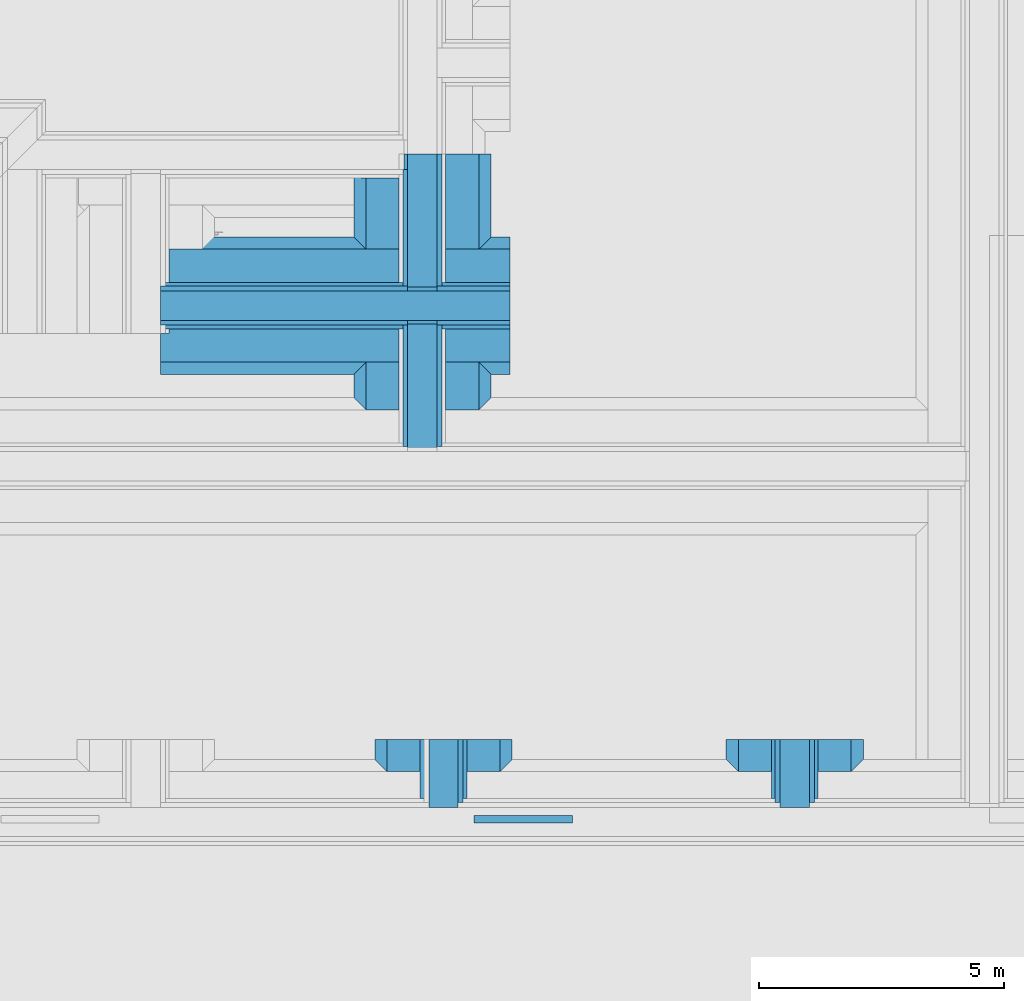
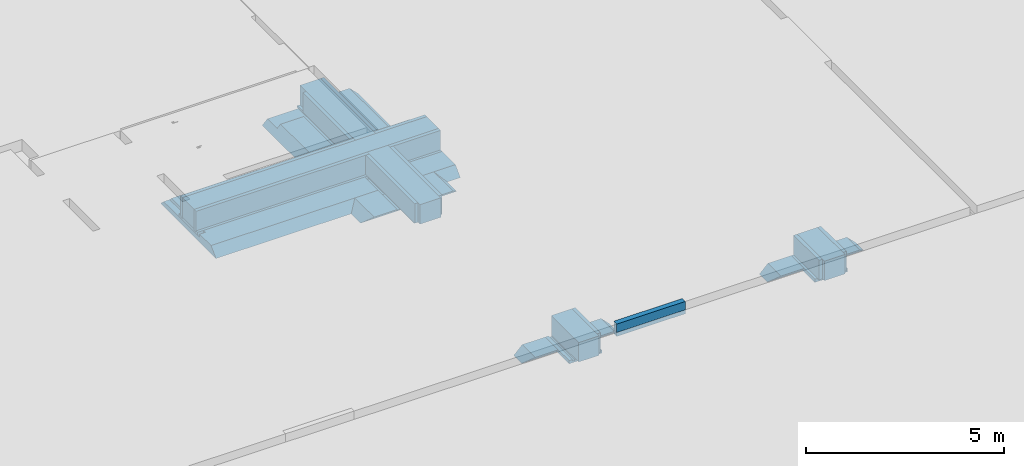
# One storey, part 5 of 15: 20 building element parts, 5 elements without a shape of their own.
"""IFC2X3 building model written with IfcOpenShell, lengths in millimetres."""

from ifc_helpers import new_model, entity, si_unit, converted_unit, derived_unit, money_unit, direction, frame, origin_with_axes, place, context, subcontext, project, spatial, faceted_brep, material, type_object, element, aggregate, save


model = new_model("IFC2X3")

# Units and contexts
model_context = context("Model", 3, precision=0.01, world=origin_with_axes(), true_north=direction((0.0, 1.0)))
plan_context = context("Plan", 3, precision=0.01, world=origin_with_axes(), true_north=direction((0.0, 1.0)))
body_context = subcontext(model_context, "Body", "Model", "MODEL_VIEW")
ifc_project = project(units=[si_unit("LENGTHUNIT", "METRE", prefix="MILLI"), si_unit("AREAUNIT", "SQUARE_METRE"), si_unit("VOLUMEUNIT", "CUBIC_METRE"), converted_unit("PLANEANGLEUNIT", "DEGREE", entity("IfcPlaneAngleMeasure", 0.0174532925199), si_unit("PLANEANGLEUNIT", "RADIAN"), dimensions=[0, 0, 0, 0, 0, 0, 0]), money_unit("EUR"), converted_unit("TIMEUNIT", "Year", entity("IfcTimeMeasure", 31556926.0), si_unit("TIMEUNIT", "SECOND"), dimensions=[0, 0, 1, 0, 0, 0, 0]), si_unit("MASSUNIT", "GRAM", prefix="KILO"), si_unit("THERMODYNAMICTEMPERATUREUNIT", "DEGREE_CELSIUS"), si_unit("LUMINOUSINTENSITYUNIT", "LUMEN"), si_unit("ENERGYUNIT", "JOULE", prefix="MEGA"), derived_unit("THERMALCONDUCTANCEUNIT", [(si_unit("POWERUNIT", "WATT"), 1), (si_unit("LENGTHUNIT", "METRE"), -1), (si_unit("THERMODYNAMICTEMPERATUREUNIT", "KELVIN"), -1)]), derived_unit("SPECIFICHEATCAPACITYUNIT", [(si_unit("ENERGYUNIT", "JOULE"), 1), (si_unit("MASSUNIT", "GRAM", prefix="KILO"), -1), (si_unit("THERMODYNAMICTEMPERATUREUNIT", "KELVIN"), -1)]), derived_unit("MASSDENSITYUNIT", [(si_unit("MASSUNIT", "GRAM", prefix="KILO"), 1), (si_unit("VOLUMEUNIT", "CUBIC_METRE"), -1)])], contexts=[model_context, plan_context])

# Site, building, storey
site_placement = place(None, origin_with_axes())
site = spatial("IfcSite", under=ifc_project, at=site_placement, Name="Site", CompositionType="ELEMENT")
building_placement = place(site_placement, origin_with_axes())
building = spatial("IfcBuilding", under=site, at=building_placement, Name="Naam gebouw", CompositionType="ELEMENT")
storey_placement = place(building_placement, frame((0.0, 0.0, -1050.0), z_axis=(0.0, 0.0, 1.0), x_axis=(1.0, 0.0, 0.0)))
storey = spatial("IfcBuildingStorey", under=building, at=storey_placement, Name="fundering", CompositionType="ELEMENT", Elevation=-1050.0)

# Beam, building element parts
beam_type = type_object("IfcBeamType", Name="Fundering balk IsoBouw Powerkist 2800 x 850", PredefinedType="BEAM")
beam_1_placement = place(storey_placement, frame((24125.0, 12425.0006215, -60.0000017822), z_axis=(0.0, 0.0, 1.0), x_axis=(1.0, 0.0, 0.0)))
beam_1 = element("IfcBeam", 1, at=beam_1_placement, inside=storey, type_object=beam_type, Name="28_Balk-x", ObjectType="BEAM")
ifc_material_1 = material(Name="ALG - TERREIN")
building_element_part_1_placement = place(beam_1_placement, origin_with_axes())
building_element_part_1 = element("IfcBuildingElementPart", 2, at=building_element_part_1_placement, material=ifc_material_1, Name="ALG - TERREIN", context=body_context, shape_type="Brep", body=[
    faceted_brep([(-1230.00025133, 6069.99937852, -99.9999968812), (-455.000240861, 6069.99937852, -99.9999968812), (495.000270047, 6069.99937852, -99.9999818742), (495.000270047, 6069.99937852, 3.15023562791e-07), (1170.00025413, 6069.99937852, 3.15023562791e-07), (1420.00025133, 6069.99937852, -249.999996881), (-1380.00025133, 6069.99937852, -249.999996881), (-455.000251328, 6049.99937233, -99.9999968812), (-1230.00025123, 6049.99937233, -99.999996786), (-455.000251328, 5574.99937578, -99.9999968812), (-455.000263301, 4224.99974971, -99.9999924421), (495.000263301, 4224.99974971, -99.9999924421), (495.000263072, 4124.99977648, -1.92126834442e-05), (1170.00025413, 4124.99977648, -1.92126834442e-05), (1420.00025133, 4374.99975415, -249.999996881), (-1380.00025133, 4374.99975415, -249.999996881), (-1130.00025413, 4124.99977648, -1.92126834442e-05), (-1130.00025413, 5574.99937578, -1.53859369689e-06), (-1230.00025164, 5574.99937578, -99.99999719), (-455.000251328, 5574.99937578, -1.44869627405e-06), (-455.000263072, 4124.99977648, -1.92126834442e-05)], [[[0, 1, 2, 3, 4, 5, 6]], [[7, 1, 0, 8]], [[7, 9, 10, 11, 2, 1]], [[2, 11, 12, 3]], [[3, 12, 13, 4]], [[4, 13, 14, 5]], [[5, 14, 15, 6]], [[8, 0, 6, 15, 16, 17, 18]], [[9, 7, 8, 18]], [[9, 19, 20, 10]], [[16, 15, 14, 13, 12, 11, 10, 20]], [[19, 17, 16, 20]], [[17, 19, 9, 18]]]),
    faceted_brep([(-1380.00025133, 1574.9990029, -249.999996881), (1420.00025133, 1574.9990029, -249.999996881), (1420.00025133, 1100.00012704, -249.999996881), (-1380.00025133, 1100.00012704, -249.999996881), (1170.00025413, 1824.99898057, -1.92126834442e-05), (-1130.00025413, 1824.99898057, -1.92126834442e-05), (-455.000254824, 1824.99898057, -1.92126834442e-05), (-455.000254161, 1724.9990029, -99.9999968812), (495.000254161, 1724.9990029, -99.9999968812), (495.000254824, 1824.99898057, -1.92126834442e-05), (1170.00025413, 850.000124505, -4.64804861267e-06), (-1130.00025413, 850.000124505, -3.71526964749e-06), (495.000251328, 850.000124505, -3.57478113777e-06), (495.000251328, 950.000127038, -99.9999968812), (-455.000251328, 950.000127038, -99.9999968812), (-455.000251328, 850.000124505, -3.57478113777e-06)], [[[0, 1, 2, 3]], [[4, 1, 0, 5, 6, 7, 8, 9]], [[1, 4, 10, 2]], [[11, 3, 2, 10, 12, 13, 14, 15]], [[5, 0, 3, 11]], [[6, 5, 11, 15]], [[7, 6, 15, 14]], [[8, 7, 14, 13]], [[9, 8, 13, 12]], [[4, 9, 12, 10]]]),
])
ifc_material_2 = material(Name="Isolatie - EPS")
building_element_part_2_placement = place(beam_1_placement, origin_with_axes())
building_element_part_2 = element("IfcBuildingElementPart", 3, at=building_element_part_2_placement, material=ifc_material_2, Name="Isolatie - EPS", context=body_context, shape_type="Brep", body=[
    faceted_brep([(-360.000252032, 6069.99937852, -49.0824424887), (-360.000252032, 6069.99937852, 0.0), (-280.000116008, 6069.99937852, 0.0), (-280.000249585, 6069.99937852, -49.0824424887), (-360.000252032, 3449.99975415, 8.43651903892e-06), (-360.000252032, 5749.99937852, -1.43982603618e-08), (-360.000252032, 3449.99975415, -49.0824424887), (-280.000248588, 5749.99937852, 0.0), (-280.000248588, 5749.99937852, 600.0), (-280.000249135, 3374.99974503, 600.000004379), (-280.000249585, 3374.99973954, 8.43651903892e-06), (-280.000249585, 3449.99975415, 8.43651903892e-06), (-280.000249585, 3449.99975415, -49.0824424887), (-380.000242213, 3374.99974503, 2.4249691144e-06), (-380.000242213, 5749.99937852, -1.79978254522e-08), (-360.000252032, 3374.99973954, 8.43651903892e-06), (-380.000242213, 5749.99937852, 599.999999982), (-380.000242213, 3374.99974503, 600.000004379)], [[[0, 1, 2, 3]], [[4, 5, 1, 0, 6]], [[5, 7, 2, 1]], [[2, 7, 8, 9, 10, 11, 12, 3]], [[0, 3, 12, 6]], [[13, 14, 5, 4, 15]], [[4, 6, 12, 11]], [[14, 16, 8, 7, 5]], [[9, 8, 16, 17]], [[17, 13, 15, 10, 9]], [[15, 4, 11, 10]], [[17, 16, 14, 13]]]),
    faceted_brep([(-280.000249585, 175.000127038, -49.0824424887), (-280.000249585, 2499.9990029, -49.0824424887), (-280.000249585, 2499.9990029, 8.43651926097e-06), (-280.000249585, 2574.99901751, 8.43651903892e-06), (-280.000249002, 2574.99901201, 600.000004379), (-280.000248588, 100.000117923, 600.0), (-280.000248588, 100.000124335, 9.74032610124e-06), (-280.000249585, 175.000127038, 9.74032610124e-06), (-360.000252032, 175.000127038, -49.0824424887), (-360.000252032, 2499.9990029, -49.0824424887), (-360.000252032, 2499.9990029, 8.43651926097e-06), (-360.000252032, 2574.99901751, 8.43651903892e-06), (-380.000242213, 2574.99901201, 2.4249691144e-06), (-380.000242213, 2574.99901201, 600.000004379), (-380.000242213, 100.000117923, 600.000000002), (-380.000242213, 100.000117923, 3.85114162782e-09), (-360.000252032, 100.000124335, 9.70129909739e-06), (-360.000252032, 175.000127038, 9.70129909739e-06)], [[[0, 1, 2, 3, 4, 5, 6, 7]], [[8, 9, 1, 0]], [[10, 2, 1, 9]], [[10, 11, 3, 2]], [[4, 3, 11, 12, 13]], [[5, 4, 13, 14]], [[14, 15, 16, 6, 5]], [[16, 17, 7, 6]], [[17, 8, 0, 7]], [[17, 10, 9, 8]], [[12, 11, 10, 17, 16, 15]], [[14, 13, 12, 15]]]),
])
building_element_part_3_placement = place(beam_1_placement, origin_with_axes())
building_element_part_3 = element("IfcBuildingElementPart", 4, at=building_element_part_3_placement, material=ifc_material_2, Name="Isolatie - EPS", context=body_context, shape_type="Brep", body=[
    faceted_brep([(400.000252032, 175.000127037, 1.0072055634e-05), (400.000252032, 2499.9990029, 8.43651926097e-06), (400.000252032, 2574.99901751, 8.43651903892e-06), (420.000242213, 2574.99901201, 2.4249691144e-06), (420.000242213, 100.000117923, 1.41687328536e-07), (400.000252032, 100.000124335, 1.0072055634e-05), (400.000252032, 175.000127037, -49.0824424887), (400.000252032, 2499.9990029, -49.0824424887), (320.000249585, 2499.9990029, 8.43651926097e-06), (320.000249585, 2574.99901751, 8.43651903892e-06), (320.000249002, 2574.99901201, 600.000004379), (420.000242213, 2574.99901201, 600.000004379), (420.000242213, 100.000117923, 600.000000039), (320.000248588, 100.000117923, 600.0), (320.000248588, 100.000124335, 1.00330286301e-05), (320.000249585, 175.000127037, 1.00330286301e-05), (320.000249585, 175.000127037, -49.0824424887), (320.000249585, 2499.9990029, -49.0824424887)], [[[0, 1, 2, 3, 4, 5]], [[6, 7, 1, 0]], [[8, 9, 2, 1]], [[3, 2, 9, 10, 11]], [[4, 3, 11, 12]], [[12, 13, 14, 5, 4]], [[14, 15, 0, 5]], [[16, 17, 7, 6]], [[8, 1, 7, 17]], [[15, 16, 6, 0]], [[9, 8, 17, 16, 15, 14, 13, 10]], [[12, 11, 10, 13]]]),
    faceted_brep([(420.000242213, 3374.99974503, 2.4249691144e-06), (400.000252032, 3374.99973954, 8.43651903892e-06), (400.000252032, 3449.99975415, 8.43651903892e-06), (400.000252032, 6069.99937852, 5.85601900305e-06), (420.000242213, 6069.99937852, 5.85601900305e-06), (320.000249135, 3374.99974503, 600.000004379), (320.000249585, 3374.99973954, 8.43651903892e-06), (420.000242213, 3374.99974503, 600.000004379), (320.000249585, 3449.99975415, 8.43651903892e-06), (400.000252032, 3449.99975415, -49.0824424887), (400.000252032, 6069.99937852, -49.0824424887), (320.000249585, 6069.99937852, -49.0824424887), (320.000249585, 6069.99937852, 600.00000335), (420.000242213, 6069.99937852, 600.00000335), (320.000249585, 3449.99975415, -49.0824424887)], [[[0, 1, 2, 3, 4]], [[5, 6, 1, 0, 7]], [[8, 2, 1, 6]], [[3, 2, 9, 10]], [[10, 11, 12, 13, 4, 3]], [[13, 7, 0, 4]], [[14, 8, 6, 5, 12, 11]], [[12, 5, 7, 13]], [[14, 9, 2, 8]], [[10, 9, 14, 11]]]),
])
ifc_material_3 = material(Name="Beton gewapend C")
building_element_part_4_placement = place(beam_1_placement, origin_with_axes())
building_element_part_4 = element("IfcBuildingElementPart", 5, at=building_element_part_4_placement, material=ifc_material_3, Name="Beton gewapend C", context=body_context, shape_type="Brep", body=[
    faceted_brep([(320.000248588, 0.0, 0.0), (320.000248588, 2674.99900564, 0.0), (320.000248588, 2674.99900564, 600.0), (320.000248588, 0.0, 600.0), (-280.000248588, 0.0, 0.0), (-280.000248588, 2674.99900564, 0.0), (-280.000248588, 2674.99900564, 600.0), (-280.000248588, 0.0, 600.0)], [[[0, 1, 2, 3]], [[4, 5, 1, 0]], [[5, 6, 2, 1]], [[3, 2, 6, 7]], [[7, 4, 0, 3]], [[7, 6, 5, 4]]]),
    faceted_brep([(-280.000248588, 6069.99937852, 600.0), (-280.000248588, 3274.99975141, 600.0), (320.000248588, 3274.99975141, 600.0), (320.000248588, 6069.99937852, 600.0), (-280.000248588, 6069.99937852, 0.0), (-280.000248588, 3274.99975141, 0.0), (320.000248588, 3274.99975141, 0.0), (320.000248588, 6069.99937852, 0.0)], [[[0, 1, 2, 3]], [[4, 5, 1, 0]], [[5, 6, 2, 1]], [[3, 2, 6, 7]], [[7, 4, 0, 3]], [[7, 6, 5, 4]]]),
])
aggregate(beam_1, [building_element_part_1, building_element_part_2, building_element_part_3, building_element_part_4])

# Slab, building element parts
slab_type = type_object("IfcSlabType", Name="23 kanaaplaat VBI Rc 3,7 132mm 450", PredefinedType="NOTDEFINED")
slab_placement = place(storey_placement, frame((25200.0013568, 4850.0, 1050.0), z_axis=(0.0, 0.0, 1.0), x_axis=(1.0, 0.0, 0.0)))
slab = element("IfcSlab", 6, at=slab_placement, inside=storey, type_object=slab_type, Name="23_23 VBI 260 Rc 3,7", PredefinedType="NOTDEFINED")
ifc_material_4 = material(Name="Beton gewapend prefab vloer")
building_element_part_5_placement = place(slab_placement, origin_with_axes())
building_element_part_5 = element("IfcBuildingElementPart", 7, at=building_element_part_5_placement, material=ifc_material_4, Name="Beton gewapend prefab vloer", context=body_context, shape_type="Brep", body=[
    faceted_brep([(2000.0, 0.0, -330.0), (2000.0, 0.0, -70.0), (0.0, 0.0, -70.0), (0.0, 0.0, -330.0), (2000.0, 149.99997201, -330.0), (2000.0, 149.99997201, -70.0), (0.0, 149.99997201, -70.0), (0.0, 149.99997201, -330.0)], [[[0, 1, 2, 3]], [[4, 5, 1, 0]], [[2, 1, 5, 6]], [[3, 2, 6, 7]], [[3, 7, 4, 0]], [[7, 6, 5, 4]]]),
])
ifc_material_5 = material(Name="Isolatie - EPS vloer")
building_element_part_6_placement = place(slab_placement, origin_with_axes())
building_element_part_6 = element("IfcBuildingElementPart", 8, at=building_element_part_6_placement, material=ifc_material_5, Name="Isolatie - EPS vloer", context=body_context, shape_type="Brep", body=[
    faceted_brep([(0.0, 0.0, -330.0), (0.0, 0.0, -450.0), (2000.0, 0.0, -450.0), (2000.0, 0.0, -330.0), (0.0, 149.99997201, -330.0), (0.0, 149.99997201, -450.0), (2000.0, 149.99997201, -450.0), (2000.0, 149.99997201, -330.0)], [[[0, 1, 2, 3]], [[4, 5, 1, 0]], [[2, 1, 5, 6]], [[3, 2, 6, 7]], [[4, 0, 3, 7]], [[7, 6, 5, 4]]]),
])
aggregate(slab, [building_element_part_5, building_element_part_6])

# Beam, building element parts
beam_2_placement = place(storey_placement, frame((18805.0, 15400.0, -60.0000017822), z_axis=(0.0, 0.0, 1.0), x_axis=(0.0, -1.0, 0.0)))
beam_2 = element("IfcBeam", 9, at=beam_2_placement, inside=storey, type_object=beam_type, Name="28_Balk-x", ObjectType="BEAM")
building_element_part_7_placement = place(beam_2_placement, origin_with_axes())
building_element_part_7 = element("IfcBuildingElementPart", 10, at=building_element_part_7_placement, material=ifc_material_1, Name="ALG - TERREIN", context=body_context, shape_type="Brep", body=[
    faceted_brep([(475.000375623, 175.000375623, -99.9999968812), (475.000375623, 175.000375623, 8.43651926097e-06), (475.000375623, 4864.99974867, 8.43651926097e-06), (475.000375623, 4864.99974867, -99.9999968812), (569.9999907, 175.000375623, 8.43651926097e-06), (569.9999907, 175.000375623, -99.9999968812), (569.9999907, 80.0003712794, 8.43651926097e-06), (569.9999907, 0.000369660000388, 1.66384754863e-05), (1150.00039795, 0.0, -1.92126834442e-05), (1150.00039795, 4864.99974867, 8.79025874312e-06), (1250.00037562, 4864.99974867, -99.9999968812), (-475.000375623, 175.000375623, -99.9999968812), (-1250.00040018, 175.000375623, -99.9999968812), (-1250.00037562, 6.49857270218e-05, -99.9999968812), (-475.000375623, 0.0, -99.9999968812), (475.000375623, 0.0, -99.9999968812), (569.9999907, 0.0, -99.9999968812), (1250.00037562, 5815.00025133, -99.9999968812), (475.000375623, 5815.00025133, -99.9999968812), (475.000395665, 7123.44907352, -100.00001028), (-475.000395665, 7123.44907352, -100.00001028), (-475.000375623, 5815.00025133, -99.9999968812), (-1250.00037562, 5815.00025133, -99.9999968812), (-1250.00037562, 4864.99974867, -99.9999968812), (-475.000375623, 4864.99974867, -99.9999968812), (569.9999907, 0.000369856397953, -49.0824435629), (-1400.00037562, 0.0, -249.999996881), (1400.00037562, 0.0, -249.999996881), (1400.00037562, 7123.44907352, -249.999996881), (1150.00039795, 7123.44907352, -1.92126834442e-05), (1150.00039795, 5815.00025133, 8.92480755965e-06), (-1150.00039795, 175.000375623, 8.43651903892e-06), (-475.000375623, 175.000375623, 8.43651903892e-06), (-1150.00039795, 4864.99974867, 5.34200417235e-06), (-1150.00039795, 5815.00025133, 5.34200417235e-06), (-1150.00039795, 7123.44907352, -1.92126834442e-05), (-1400.00037562, 7123.44907352, -249.999996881), (475.000375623, 5815.00025133, 8.43651926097e-06), (475.000395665, 7123.44907352, 2.25106189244e-05), (-475.000395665, 7123.44907352, 2.25106189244e-05), (-475.000375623, 5815.00025133, 8.43651903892e-06), (-475.000375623, 4864.99974867, 8.43651903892e-06)], [[[0, 1, 2, 3]], [[4, 1, 0, 5]], [[4, 6, 7, 8, 9, 2, 1]], [[10, 3, 2, 9]], [[11, 12, 13, 14, 15, 16, 5, 0, 3, 10, 17, 18, 19, 20, 21, 22, 23, 24]], [[25, 7, 6, 4, 5, 16]], [[14, 13, 26, 27, 8, 7, 25, 16, 15]], [[17, 10, 9, 8, 27, 28, 29, 30]], [[31, 12, 11, 32]], [[12, 31, 33, 23, 22, 34, 35, 36, 26, 13]], [[17, 30, 37, 18]], [[19, 18, 37, 38]], [[20, 19, 38, 29, 28, 36, 35, 39]], [[39, 40, 21, 20]], [[40, 34, 22, 21]], [[24, 23, 33, 41]], [[32, 11, 24, 41]], [[27, 26, 36, 28]], [[38, 37, 30, 29]], [[31, 32, 41, 33]], [[35, 34, 40, 39]]]),
])
building_element_part_8_placement = place(beam_2_placement, origin_with_axes())
building_element_part_8 = element("IfcBuildingElementPart", 11, at=building_element_part_8_placement, material=ifc_material_2, Name="Isolatie - EPS", context=body_context, shape_type="Brep", body=[
    faceted_brep([(380.000371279, 0.0, -49.0824435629), (380.000371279, 0.0, 8.43651903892e-06), (380.000371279, 7123.44907352, 8.43651903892e-06), (380.000371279, 7123.44907352, -49.0824435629), (475.000375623, 0.0, 8.43651926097e-06), (400.000361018, 0.0, 8.43651903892e-06), (300.000369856, 0.0, -49.0824435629), (300.000369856, 0.0, 8.43651903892e-06), (-300.000369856, 0.0, 8.43651903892e-06), (-300.000369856, 0.0, -49.0824435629), (-380.000371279, 0.0, -49.0824435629), (-380.000371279, 0.0, 8.43651903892e-06), (-400.000361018, 0.0, 8.43651903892e-06), (-475.000375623, 0.0, 8.43651903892e-06), (-475.000375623, 0.0, -99.9999968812), (475.000375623, 0.0, -99.9999968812), (400.000361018, 7123.44907352, 8.43651903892e-06), (300.000369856, 7123.44907352, -49.0824435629), (475.000375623, 7123.44907352, 8.43651926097e-06), (475.000375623, 7123.44907352, -99.9999968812), (-475.000375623, 7123.44907352, -99.9999968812), (-475.000375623, 7123.44907352, 8.43651903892e-06), (-400.000361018, 7123.44907352, 8.43651903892e-06), (-380.000371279, 7123.44907352, 8.43651903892e-06), (-380.000371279, 7123.44907352, -49.0824435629), (-300.000369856, 7123.44907352, -49.0824435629), (-300.000369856, 7123.44907352, 8.43651903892e-06), (300.000369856, 7123.44907352, 8.43651903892e-06)], [[[0, 1, 2, 3]], [[4, 5, 1, 0, 6, 7, 8, 9, 10, 11, 12, 13, 14, 15]], [[1, 5, 16, 2]], [[17, 3, 2, 16, 18, 19, 20, 21, 22, 23, 24, 25, 26, 27]], [[6, 0, 3, 17]], [[5, 4, 18, 16]], [[7, 6, 17, 27]], [[8, 7, 27, 26]], [[9, 8, 26, 25]], [[10, 9, 25, 24]], [[11, 10, 24, 23]], [[12, 11, 23, 22]], [[13, 12, 22, 21]], [[14, 13, 21, 20]], [[15, 14, 20, 19]], [[4, 15, 19, 18]]]),
])
building_element_part_9_placement = place(beam_2_placement, origin_with_axes())
building_element_part_9 = element("IfcBuildingElementPart", 12, at=building_element_part_9_placement, material=ifc_material_2, Name="Isolatie - EPS", context=body_context, shape_type="Brep", body=[
    faceted_brep([(-400.000366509, 7123.44907352, 600.000004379), (-400.000366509, 7123.44907352, 2.4249691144e-06), (-400.000366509, 5640.00024859, 0.0), (-400.000366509, 5640.00024859, 600.0), (-300.00036966, 7123.44907352, -49.0824424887), (-380.000369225, 7123.44907352, -49.0824424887), (-380.000369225, 7123.44907352, 2.4249691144e-06), (-300.00036966, 7123.44907352, 600.000004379), (-380.000369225, 5640.00024859, 0.0), (-300.000372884, 5640.00024859, 0.0), (-300.000372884, 5640.00024859, 600.0), (-300.00036966, 0.0, -49.0824424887), (-380.000369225, 0.0, -49.0824424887), (-380.000369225, 0.0, 2.4249691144e-06), (-380.000369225, 5039.99975141, 0.0), (-300.000372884, 5039.99975141, 0.0), (-300.000372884, 5039.99975141, 600.0), (-300.00036966, 0.0, 600.000004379), (-400.000366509, 0.0, 600.000004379), (-400.000366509, 0.0, 2.4249691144e-06), (-400.000366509, 5039.99975141, 0.0), (-400.000366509, 5039.99975141, 600.0)], [[[0, 1, 2, 3]], [[4, 5, 6, 1, 0, 7]], [[1, 6, 8, 2]], [[8, 9, 10, 3, 2]], [[7, 0, 3, 10]], [[4, 11, 12, 5]], [[12, 13, 14, 8, 6, 5]], [[10, 9, 15, 16, 17, 11, 4, 7]], [[15, 9, 8, 14]], [[11, 17, 18, 19, 13, 12]], [[13, 19, 20, 14]], [[15, 14, 20, 21, 16]], [[18, 17, 16, 21]], [[19, 18, 21, 20]]]),
])
building_element_part_10_placement = place(beam_2_placement, origin_with_axes())
building_element_part_10 = element("IfcBuildingElementPart", 13, at=building_element_part_10_placement, material=ifc_material_2, Name="Isolatie - EPS", context=body_context, shape_type="Brep", body=[
    faceted_brep([(300.00036966, 0.0, 600.000004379), (300.000372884, 5039.99975141, 600.0), (300.000372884, 5039.99975141, 0.0), (300.000372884, 5640.00024859, 0.0), (300.000372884, 5640.00024859, 600.0), (300.00036966, 7123.44907352, 600.000004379), (300.00036966, 7123.44907352, -49.0824424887), (300.00036966, 0.0, -49.0824424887), (400.000366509, 0.0, 600.000004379), (400.000366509, 5039.99975141, 600.0), (400.000366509, 5039.99975141, 0.0), (380.000369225, 5039.99975141, 0.0), (380.000369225, 5640.00024859, 0.0), (400.000366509, 5640.00024859, 0.0), (400.000366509, 5640.00024859, 600.0), (400.000366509, 7123.44907352, 600.000004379), (380.000369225, 7123.44907352, -49.0824424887), (400.000366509, 7123.44907352, 2.4249691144e-06), (380.000369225, 7123.44907352, 2.4249691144e-06), (380.000369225, 0.0, -49.0824424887), (380.000369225, 0.0, 2.4249691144e-06), (400.000366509, 0.0, 2.4249691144e-06)], [[[0, 1, 2, 3, 4, 5, 6, 7]], [[0, 8, 9, 1]], [[10, 11, 2, 1, 9]], [[11, 12, 3, 2]], [[12, 13, 14, 4, 3]], [[15, 5, 4, 14]], [[16, 6, 5, 15, 17, 18]], [[16, 19, 7, 6]], [[19, 20, 21, 8, 0, 7]], [[8, 21, 10, 9]], [[21, 20, 11, 10]], [[16, 18, 12, 11, 20, 19]], [[18, 17, 13, 12]], [[17, 15, 14, 13]]]),
])
building_element_part_11_placement = place(beam_2_placement, origin_with_axes())
building_element_part_11 = element("IfcBuildingElementPart", 14, at=building_element_part_11_placement, material=ifc_material_3, Name="Beton gewapend C", context=body_context, shape_type="Brep", body=[
    faceted_brep([(300.000372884, 0.0, 600.0), (300.000372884, 7123.44907352, 600.0), (-300.000372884, 7123.44907352, 600.0), (-300.000372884, 0.0, 600.0), (300.000372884, 0.0, 0.0), (300.000372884, 7123.44907352, 0.0), (-300.000372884, 7123.44907352, 0.0), (-300.000372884, 0.0, 0.0)], [[[0, 1, 2, 3]], [[4, 5, 1, 0]], [[2, 1, 5, 6]], [[3, 2, 6, 7]], [[4, 0, 3, 7]], [[7, 6, 5, 4]]]),
])
aggregate(beam_2, [building_element_part_7, building_element_part_8, building_element_part_9, building_element_part_10, building_element_part_11])

beam_3_placement = place(storey_placement, frame((24575.0, 4850.00001067, -60.0000017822), z_axis=(0.0, 0.0, 1.0), x_axis=(1.0, 0.0, 0.0)))
beam_3 = element("IfcBeam", 15, at=beam_3_placement, inside=storey, type_object=beam_type, Name="28_Balk-x", ObjectType="BEAM")
building_element_part_12_placement = place(beam_3_placement, origin_with_axes())
building_element_part_12 = element("IfcBuildingElementPart", 16, at=building_element_part_12_placement, material=ifc_material_1, Name="ALG - TERREIN", context=body_context, shape_type="Brep", body=[
    faceted_brep([(1150.00074598, 1045.00001377, 2.18659290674e-06), (1400.00074868, 1295.00000351, -249.999996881), (1400.00074851, 1700.00000123, -249.999996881), (1150.00074598, 1700.00000123, 5.65164248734e-06), (-1400.00074858, 1295.00000199, -249.999996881), (475.000730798, 1045.0000134, 1.8645500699e-06), (475.000730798, 1145.00001672, -100.000010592), (-475.000730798, 1145.00001621, -100.000010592), (-475.000730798, 1045.00001289, 1.41130374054e-06), (-1150.00074598, 1045.00001252, 1.08926068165e-06), (-1400.00074851, 1700.00000123, -249.999996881), (-475.000730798, 1700.00000123, -100.000012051), (475.000730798, 1700.00000123, -100.000012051), (475.000730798, 1700.00000123, 5.65164248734e-06), (-1150.00074598, 1700.00000123, 5.65164226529e-06), (-475.000730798, 1700.00000123, 5.65164226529e-06)], [[[0, 1, 2, 3]], [[4, 1, 0, 5, 6, 7, 8, 9]], [[1, 4, 10, 2]], [[11, 12, 13, 3, 2, 10, 14, 15]], [[5, 0, 3, 13]], [[6, 5, 13, 12]], [[7, 6, 12, 11]], [[8, 7, 11, 15]], [[9, 8, 15, 14]], [[4, 9, 14, 10]]]),
])
building_element_part_13_placement = place(beam_3_placement, origin_with_axes())
building_element_part_13 = element("IfcBuildingElementPart", 17, at=building_element_part_13_placement, material=ifc_material_2, Name="Isolatie - EPS", context=body_context, shape_type="Brep", body=[
    faceted_brep([(400.000745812, 495.000002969, 7.15338899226e-07), (475.000748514, 495.00000301, 7.15338899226e-07), (475.000748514, 1700.00000123, 2.00297778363e-06), (400.000745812, 1700.00000123, 2.00297778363e-06), (475.000748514, 495.00000301, -99.9999968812), (380.000754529, 495.000002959, 7.15338899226e-07), (380.000754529, 495.000002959, -49.0824460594), (300.000746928, 495.000002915, -49.0824460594), (300.000746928, 495.000002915, 7.15338899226e-07), (-300.000746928, 495.00000259, 7.15338899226e-07), (-300.000746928, 495.00000259, -49.0824460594), (-380.000754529, 495.000002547, -49.0824460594), (-380.000754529, 495.000002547, 7.15338899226e-07), (-400.000745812, 495.000002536, 7.15338899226e-07), (-475.000748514, 495.000002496, 7.15338899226e-07), (-475.000748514, 495.000002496, -99.9999968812), (475.000748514, 1700.00000123, -99.9999968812), (300.000746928, 1700.00000123, -49.0824460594), (380.000754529, 1700.00000123, -49.0824460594), (380.000754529, 1700.00000123, 2.00297778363e-06), (-475.000748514, 1700.00000123, -99.9999968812), (-475.000748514, 1700.00000123, 2.00297756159e-06), (-400.000745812, 1700.00000123, 2.00297778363e-06), (-380.000754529, 1700.00000123, 2.00297778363e-06), (-380.000754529, 1700.00000123, -49.0824460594), (-300.000746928, 1700.00000123, -49.0824460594), (-300.000746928, 1700.00000123, 2.00297778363e-06), (300.000746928, 1700.00000123, 2.00297778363e-06)], [[[0, 1, 2, 3]], [[4, 1, 0, 5, 6, 7, 8, 9, 10, 11, 12, 13, 14, 15]], [[1, 4, 16, 2]], [[17, 18, 19, 3, 2, 16, 20, 21, 22, 23, 24, 25, 26, 27]], [[5, 0, 3, 19]], [[6, 5, 19, 18]], [[7, 6, 18, 17]], [[8, 7, 17, 27]], [[9, 8, 27, 26]], [[10, 9, 26, 25]], [[11, 10, 25, 24]], [[12, 11, 24, 23]], [[13, 12, 23, 22]], [[14, 13, 22, 21]], [[15, 14, 21, 20]], [[4, 15, 20, 16]]]),
])
building_element_part_14_placement = place(beam_3_placement, origin_with_axes())
building_element_part_14 = element("IfcBuildingElementPart", 18, at=building_element_part_14_placement, material=ifc_material_2, Name="Isolatie - EPS", context=body_context, shape_type="Brep", body=[
    faceted_brep([(300.00075075, 1700.00000123, 599.999997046), (300.00075075, 419.999990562, 600.000000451), (400.0007394, 419.999990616, 600.000000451), (400.0007394, 1700.00000123, 599.999997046), (300.00075075, 495.000002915, 7.15338899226e-07), (300.00075075, 419.999990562, 7.15338899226e-07), (300.00075075, 1700.00000123, -49.0824424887), (300.00075075, 495.000002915, -49.0824424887), (400.0007394, 419.999990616, 7.15338899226e-07), (400.0007394, 1700.00000123, 2.5632542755e-06), (380.000752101, 1700.00000123, -49.0824424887), (380.000752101, 1700.00000123, 2.5632542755e-06), (380.000752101, 495.000002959, 7.15338899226e-07), (380.000752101, 495.000002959, -49.0824424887)], [[[0, 1, 2, 3]], [[4, 5, 1, 0, 6, 7]], [[5, 8, 2, 1]], [[3, 2, 8, 9]], [[10, 6, 0, 3, 9, 11]], [[9, 8, 5, 4, 12, 11]], [[10, 13, 7, 6]], [[7, 13, 12, 4]], [[11, 12, 13, 10]]]),
])
building_element_part_15_placement = place(beam_3_placement, origin_with_axes())
building_element_part_15 = element("IfcBuildingElementPart", 19, at=building_element_part_15_placement, material=ifc_material_3, Name="Beton gewapend C", context=body_context, shape_type="Brep", body=[
    faceted_brep([(-300.000745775, 1700.00000123, 600.0), (-300.000745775, 319.999999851, 600.000001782), (300.000745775, 320.000000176, 600.000001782), (300.000745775, 1700.00000123, 600.0), (-300.000745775, 1700.00000123, 0.0), (-300.000745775, 319.999999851, 1.78216552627e-06), (300.000745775, 320.000000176, 1.78216552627e-06), (300.000745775, 1700.00000123, 0.0)], [[[0, 1, 2, 3]], [[4, 5, 1, 0]], [[5, 6, 2, 1]], [[3, 2, 6, 7]], [[7, 4, 0, 3]], [[7, 6, 5, 4]]]),
])
aggregate(beam_3, [building_element_part_12, building_element_part_13, building_element_part_14, building_element_part_15])

beam_4_placement = place(storey_placement, frame((31737.5, 4850.0, -60.0000017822), z_axis=(0.0, 0.0, 1.0), x_axis=(1.0, 0.0, 0.0)))
beam_4 = element("IfcBeam", 20, at=beam_4_placement, inside=storey, type_object=beam_type, Name="28_Balk-x", ObjectType="BEAM")
building_element_part_16_placement = place(beam_4_placement, origin_with_axes())
building_element_part_16 = element("IfcBuildingElementPart", 21, at=building_element_part_16_placement, material=ifc_material_1, Name="ALG - TERREIN", context=body_context, shape_type="Brep", body=[
    faceted_brep([(1150.00113574, 1045.00002832, -7.27431315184e-06), (1400.00112158, 1295.00001806, -249.999996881), (1400.00112141, 1700.0000119, -249.999996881), (1150.00113574, 1700.0000119, -1.12060820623e-05), (-1400.00112147, 1295.00001654, -249.999996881), (475.001107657, 1045.00002795, -7.27431315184e-06), (475.001107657, 1145.00003245, -100.000011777), (-475.001107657, 1145.00003194, -100.000011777), (-475.001107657, 1045.00002743, -7.27431315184e-06), (-1150.00113574, 1045.00002707, -7.27431315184e-06), (-1400.00112141, 1700.0000119, -249.999996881), (-475.001107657, 1700.0000119, -100.000013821), (475.001107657, 1700.0000119, -100.000013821), (475.001107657, 1700.0000119, 3.05172425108e-05), (-1150.00113574, 1700.0000119, -1.12060822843e-05), (-475.001107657, 1700.0000119, 3.05172422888e-05)], [[[0, 1, 2, 3]], [[4, 1, 0, 5, 6, 7, 8, 9]], [[1, 4, 10, 2]], [[11, 12, 13, 3, 2, 10, 14, 15]], [[5, 0, 3, 13]], [[6, 5, 13, 12]], [[7, 6, 12, 11]], [[8, 7, 11, 15]], [[9, 8, 15, 14]], [[4, 9, 14, 10]]]),
])
building_element_part_17_placement = place(beam_4_placement, origin_with_axes())
building_element_part_17 = element("IfcBuildingElementPart", 22, at=building_element_part_17_placement, material=ifc_material_2, Name="Isolatie - EPS", context=body_context, shape_type="Brep", body=[
    faceted_brep([(400.001116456, 495.000017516, 7.15338899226e-07), (475.001121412, 495.000017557, 7.15338899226e-07), (475.001121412, 1700.0000119, 9.72698144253e-06), (400.001116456, 1700.0000119, 9.72698144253e-06), (475.001121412, 495.000017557, -99.9999968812), (380.001123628, 495.000017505, 7.15338899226e-07), (380.001123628, 495.000017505, -49.0824485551), (300.001124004, 495.000017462, -49.0824485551), (300.001124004, 495.000017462, 7.15338899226e-07), (-300.001124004, 495.000017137, 7.15338899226e-07), (-300.001124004, 495.000017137, -49.0824485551), (-380.001123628, 495.000017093, -49.0824485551), (-380.001123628, 495.000017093, 7.15338899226e-07), (-400.001116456, 495.000017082, 7.15338899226e-07), (-475.001121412, 495.000017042, 7.15338899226e-07), (-475.001121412, 495.000017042, -99.9999968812), (475.001121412, 1700.0000119, -99.9999968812), (300.001124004, 1700.0000119, -49.0824485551), (380.001123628, 1700.0000119, -49.0824485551), (380.001123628, 1700.0000119, 9.72698144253e-06), (-475.001121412, 1700.0000119, -99.9999968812), (-475.001121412, 1700.0000119, 9.72698144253e-06), (-400.001116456, 1700.0000119, 9.72698144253e-06), (-380.001123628, 1700.0000119, 9.72698144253e-06), (-380.001123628, 1700.0000119, -49.0824485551), (-300.001124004, 1700.0000119, -49.0824485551), (-300.001124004, 1700.0000119, 9.72698144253e-06), (300.001124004, 1700.0000119, 9.72698144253e-06)], [[[0, 1, 2, 3]], [[4, 1, 0, 5, 6, 7, 8, 9, 10, 11, 12, 13, 14, 15]], [[1, 4, 16, 2]], [[17, 18, 19, 3, 2, 16, 20, 21, 22, 23, 24, 25, 26, 27]], [[5, 0, 3, 19]], [[6, 5, 19, 18]], [[7, 6, 18, 17]], [[8, 7, 17, 27]], [[9, 8, 27, 26]], [[10, 9, 26, 25]], [[11, 10, 25, 24]], [[12, 11, 24, 23]], [[13, 12, 23, 22]], [[14, 13, 22, 21]], [[15, 14, 21, 20]], [[4, 15, 20, 16]]]),
])
building_element_part_18_placement = place(beam_4_placement, origin_with_axes())
building_element_part_18 = element("IfcBuildingElementPart", 23, at=building_element_part_18_placement, material=ifc_material_2, Name="Isolatie - EPS", context=body_context, shape_type="Brep", body=[
    faceted_brep([(-300.001121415, 1700.0000119, 600.000000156), (-300.001121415, 420.000004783, 600.000000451), (-300.001121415, 420.000004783, 7.15338899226e-07), (-300.001121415, 495.000017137, 7.15338899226e-07), (-300.001121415, 495.000017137, -49.0824424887), (-300.001121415, 1700.0000119, -49.0824424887), (-400.001112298, 1700.0000119, 600.000000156), (-400.001112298, 420.000004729, 600.000000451), (-400.001112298, 420.000004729, 7.15338899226e-07), (-400.001112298, 1700.0000119, 2.70244626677e-06), (-380.001124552, 1700.0000119, 2.70244626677e-06), (-380.001124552, 495.000017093, 7.15338899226e-07), (-380.001124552, 495.000017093, -49.0824424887), (-380.001124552, 1700.0000119, -49.0824424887)], [[[0, 1, 2, 3, 4, 5]], [[6, 7, 1, 0]], [[8, 2, 1, 7]], [[3, 2, 8, 9, 10, 11]], [[12, 4, 3, 11]], [[5, 4, 12, 13]], [[5, 13, 10, 9, 6, 0]], [[9, 8, 7, 6]], [[13, 12, 11, 10]]]),
])
building_element_part_19_placement = place(beam_4_placement, origin_with_axes())
building_element_part_19 = element("IfcBuildingElementPart", 24, at=building_element_part_19_placement, material=ifc_material_2, Name="Isolatie - EPS", context=body_context, shape_type="Brep", body=[
    faceted_brep([(300.001121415, 1700.0000119, 600.000000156), (300.001121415, 420.000005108, 600.000000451), (400.001112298, 420.000005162, 600.000000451), (400.001112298, 1700.0000119, 600.000000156), (300.001121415, 495.000017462, 7.15338899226e-07), (300.001121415, 420.000005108, 7.15338899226e-07), (300.001121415, 1700.0000119, -49.0824424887), (300.001121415, 495.000017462, -49.0824424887), (400.001112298, 420.000005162, 7.15338899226e-07), (400.001112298, 1700.0000119, 2.70244626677e-06), (380.001124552, 1700.0000119, -49.0824424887), (380.001124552, 1700.0000119, 2.70244626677e-06), (380.001124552, 495.000017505, 7.15338899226e-07), (380.001124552, 495.000017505, -49.0824424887)], [[[0, 1, 2, 3]], [[4, 5, 1, 0, 6, 7]], [[5, 8, 2, 1]], [[3, 2, 8, 9]], [[10, 6, 0, 3, 9, 11]], [[9, 8, 5, 4, 12, 11]], [[10, 13, 7, 6]], [[7, 13, 12, 4]], [[11, 12, 13, 10]]]),
])
building_element_part_20_placement = place(beam_4_placement, origin_with_axes())
building_element_part_20 = element("IfcBuildingElementPart", 25, at=building_element_part_20_placement, material=ifc_material_3, Name="Beton gewapend C", context=body_context, shape_type="Brep", body=[
    faceted_brep([(-300.001118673, 1700.0000119, 600.0), (-300.001118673, 320.000014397, 600.000001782), (300.001118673, 320.000014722, 600.000001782), (300.001118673, 1700.0000119, 600.0), (-300.001118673, 1700.0000119, 0.0), (-300.001118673, 320.000014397, 1.78216552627e-06), (300.001118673, 320.000014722, 1.78216552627e-06), (300.001118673, 1700.0000119, 0.0)], [[[0, 1, 2, 3]], [[4, 5, 1, 0]], [[5, 6, 2, 1]], [[3, 2, 6, 7]], [[7, 4, 0, 3]], [[7, 6, 5, 4]]]),
])
aggregate(beam_4, [building_element_part_16, building_element_part_17, building_element_part_18, building_element_part_19, building_element_part_20])

save(model, "model.ifc")
